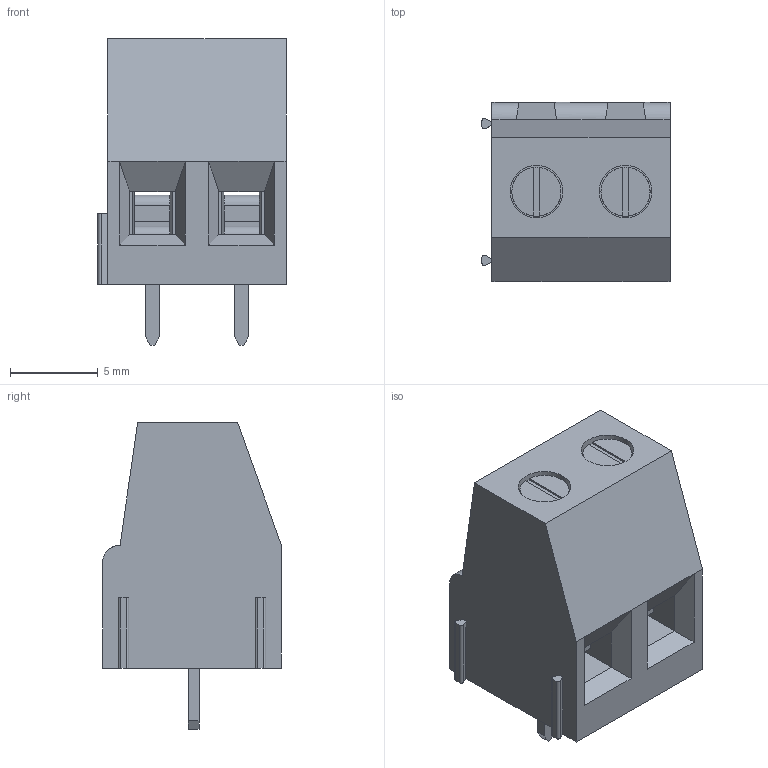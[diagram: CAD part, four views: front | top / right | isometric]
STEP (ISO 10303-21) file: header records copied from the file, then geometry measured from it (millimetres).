
FILE_DESCRIPTION (( 'STEP AP214' ), '1' );
FILE_NAME ('CONN-TH_2P-P5.08_DIBO_DB128V-5.08.step', '2022-07-29T16:12:39', ( '' ), ( '' ), 'SwSTEP 2.0', 'SolidWorks 2020', '' );
FILE_SCHEMA (( 'AUTOMOTIVE_DESIGN' ));
Length unit declared in the file: millimetre
Products named in the file (1): CONN-TH_2P-P5.08_DIBO_DB128V-5.08
Bounding box: 10.73 x 10.2 x 17.5 mm (x, y, z)
Volume: 1058.3 mm3; surface area: 1139.4 mm2
Topology: 14 solids, 14 shells, 445 faces, 1188 edges, 784 vertices
Faces by surface type: plane 296, bspline 112, cylinder 37
Entity records: 20006 total; most frequent: CARTESIAN_POINT 4560, ORIENTED_EDGE 2376, DIRECTION 1690, EDGE_CURVE 1188, LINE 878, VECTOR 878, VERTEX_POINT 784, EDGE_LOOP 474
